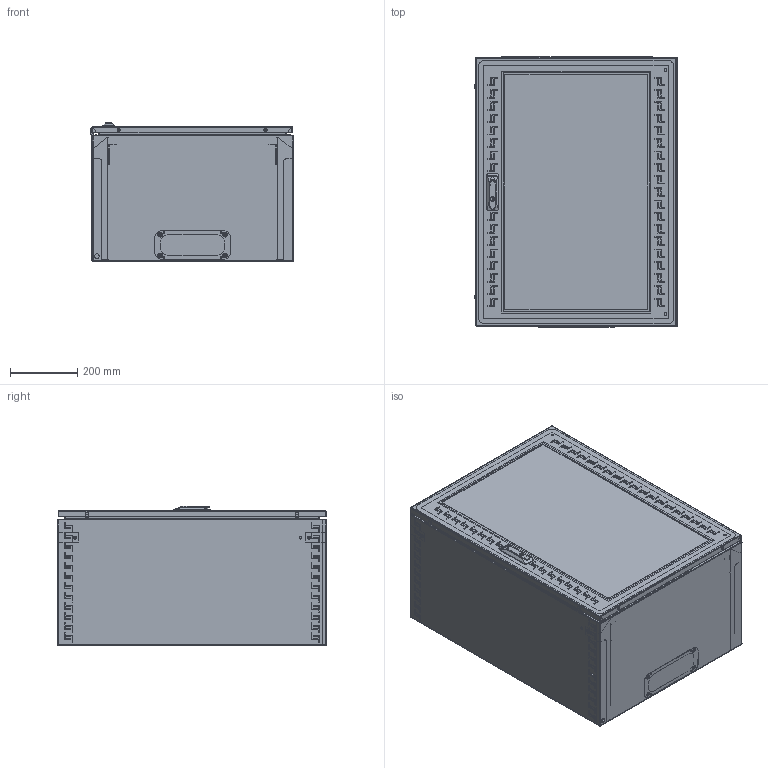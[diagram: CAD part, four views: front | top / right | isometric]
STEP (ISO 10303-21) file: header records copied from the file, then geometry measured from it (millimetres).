
FILE_DESCRIPTION (( 'STEP AP203' ), '1' );
FILE_NAME ('R5STI1640GS.STEP', '2019-07-16T12:09:18', ( '' ), ( '' ), 'SwSTEP 2.0', 'SolidWorks 2017', '' );
FILE_SCHEMA (( 'CONFIG_CONTROL_DESIGN' ));
Length unit declared in the file: millimetre
Products named in the file (40): AC00C399; Ì6õ20-A5100001_straight; AC00C401_AC00C401; 4.8x13 DIN 7981 (R5A07)_straight; AC00C112; M4x8 GOST 17475-80 (DIN 965)_straight; Ì6õ12-A5100231_straight; MirrorRB.0374.00.01.0_-00 (400)<As Machined>; M6x10-A1100004_straight; PF 7,5x15 door STI_0800x0600; AC00C383; RB.0374.01.00.0 C縫-02 (800x600x400); MirrorMirrorRB.0374.00.01.0_-00 (400)<As Machined><As Machined>; Handle 308 Mesan; Glass STI_0800x0600; AC00C061_AC00C061; RB.0374.03.01.0; AC00C380; RB.0374.06.00.0 捘_-06 (800x600 glass); Glue STI_0800x0600; M6-DIN 6923 (CM100600)_straight; RB.0374.03.00.0 CÁ; R5STI1640GS; RB.0374.00.01.0_-00 (400); Handle Mesan (part 1); RB.0374.02.00.0 C縫-02 (800x600x400); RB.0374.04.01.0; RB.0374.00.02.0_-02 (16U); Handle Mesan (part 2); RB.0374.05.01.0_-06 (800x600 glass); RB.0374.04.00.0 CÁ; RB.0374.01.01.0_-02 (800x600x400); RB.0374.00.02.0 mirror_-06 (16U); Catch Mesan; AC00C398; RB.0048.02.01.0; RB.0374.01.02.0_-02 (800x600); M6x12-DIN 6921_stright; Handle Mesan (part 3); RB.0374.05.00.0 捘_-06 (800x600 glass)
Assembly tree (102 placements, depth 4):
  R5STI1640GS
    RB.0374.02.00.0 C縫-02 (800x600x400)
      RB.0374.01.00.0 C縫-02 (800x600x400)
        RB.0374.01.01.0_-02 (800x600x400)
        RB.0374.01.02.0_-02 (800x600)
        Ì6õ20-A5100001_straight  x4
        Ì6õ12-A5100231_straight  x6
      RB.0374.03.00.0 CÁ
        RB.0374.03.01.0
        Ì6õ12-A5100231_straight  x4
      RB.0374.04.00.0 CÁ  x2
        RB.0374.04.01.0
        Ì6õ12-A5100231_straight
      RB.0048.02.01.0  x2
      AC00C399  x2
      M4x8 GOST 17475-80 (DIN 965)_straight  x4
      AC00C383  x2
      AC00C061_AC00C061  x2
      M6-DIN 6923 (CM100600)_straight  x12
    RB.0374.06.00.0 捘_-06 (800x600 glass)
      RB.0374.05.00.0 捘_-06 (800x600 glass)
        RB.0374.05.01.0_-06 (800x600 glass)
        AC00C398  x2
        Ì6õ12-A5100231_straight  x2
      AC00C112  x4
      AC00C061_AC00C061  x2
      PF 7,5x15 door STI_0800x0600
      Glass STI_0800x0600
      Glue STI_0800x0600
      Handle 308 Mesan
        Handle Mesan (part 1)
        Handle Mesan (part 2)
        Catch Mesan
        Handle Mesan (part 3)
        4.8x13 DIN 7981 (R5A07)_straight  x3
        M6x10-A1100004_straight
    RB.0374.00.01.0_-00 (400)
    RB.0374.00.02.0_-02 (16U)
    RB.0374.00.02.0 mirror_-06 (16U)
    M6x12-DIN 6921_stright  x4
    M6-DIN 6923 (CM100600)_straight  x12
    AC00C401_AC00C401  x2
    MirrorRB.0374.00.01.0_-00 (400)<As Machined>  x2
    MirrorMirrorRB.0374.00.01.0_-00 (400)<As Machined><As Machined>
    AC00C380  x2
Bounding box: 603.87 x 803 x 414.97 mm (x, y, z)
Volume: 4734958.8 mm3; surface area: 5144573.5 mm2
Topology: 142 solids, 142 shells, 6166 faces, 15961 edges, 10211 vertices
Faces by surface type: plane 3821, cylinder 1064, bspline 608, cone 473, torus 174, sphere 26
Entity records: 167411 total; most frequent: CARTESIAN_POINT 47511, ORIENTED_EDGE 24430, DIRECTION 21091, EDGE_CURVE 12215, VECTOR 9607, LINE 9607, VERTEX_POINT 7942, EDGE_LOOP 5819
